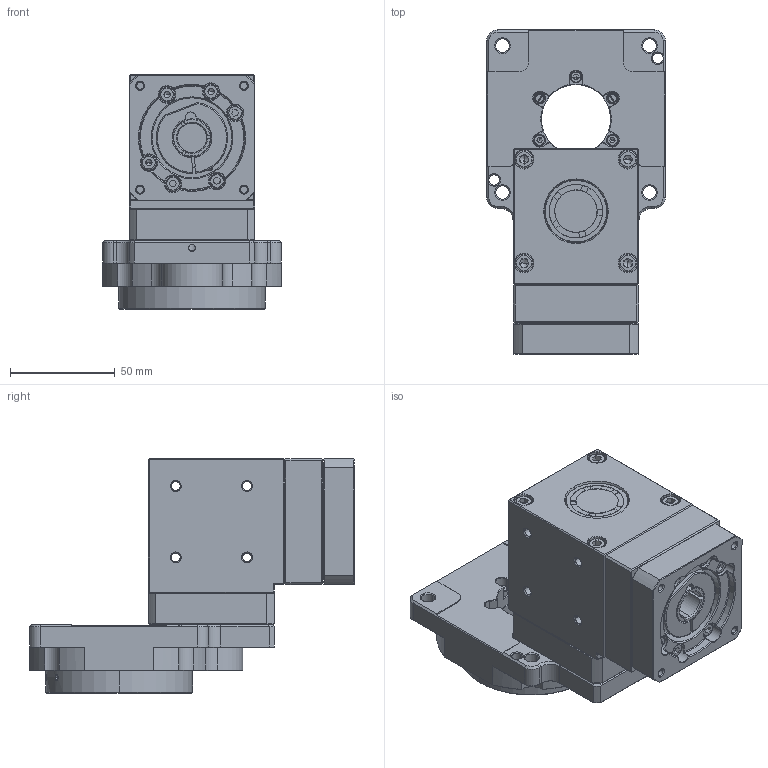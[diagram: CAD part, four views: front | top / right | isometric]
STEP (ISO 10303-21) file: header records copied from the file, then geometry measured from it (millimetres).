
FILE_DESCRIPTION (( 'STEP AP203' ), '1' );
FILE_NAME ('HRG85Z(85-10ÖÐ¿Õ).STEP', '2020-06-24T05:40:04', ( '' ), ( '' ), 'SwSTEP 2.0', 'SolidWorks 2012', '' );
FILE_SCHEMA (( 'CONFIG_CONTROL_DESIGN' ));
Length unit declared in the file: millimetre
Products named in the file (1): HRG85Z(85-10笢諾)
Bounding box: 85 x 154.5 x 111.7 mm (x, y, z)
Surface area: 86374.8 mm2 (no closed solid volume)
Topology: 0 solids, 37 shells, 838 faces, 2665 edges, 1793 vertices
Faces by surface type: plane 338, cone 222, cylinder 200, torus 55, bspline 23
Entity records: 33131 total; most frequent: CARTESIAN_POINT 9881, DIRECTION 4908, ORIENTED_EDGE 4410, EDGE_CURVE 2645, VERTEX_POINT 1793, AXIS2_PLACEMENT_3D 1790, VECTOR 1328, LINE 1328
